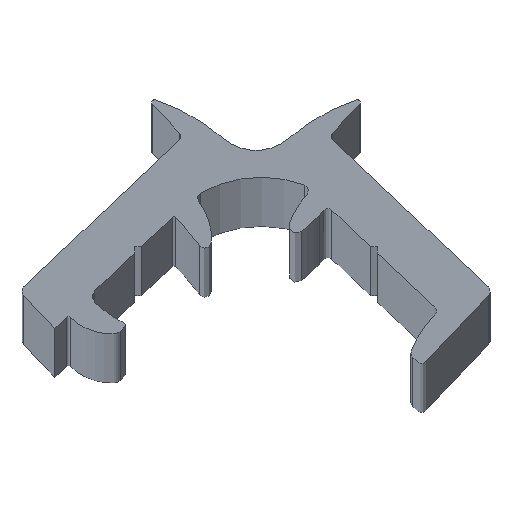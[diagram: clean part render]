
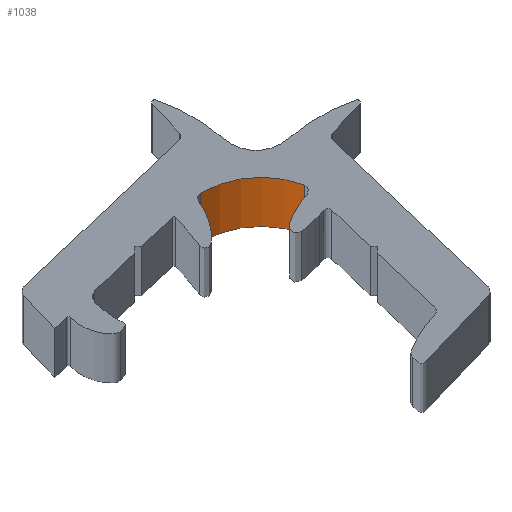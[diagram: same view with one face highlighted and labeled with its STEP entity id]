
A CAD part, top view. The second image highlights one B-rep face of the part: STEP entity #1038.
In plain terms, the highlighted cylindrical face has radius 13.341 mm (diameter 26.681 mm), a partial arc.
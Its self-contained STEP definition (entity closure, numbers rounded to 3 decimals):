
#78=FACE_OUTER_BOUND('',#132,.T.);
#132=EDGE_LOOP('',(#817,#818,#819,#820));
#216=LINE('',#1768,#308);
#217=LINE('',#1774,#309);
#308=VECTOR('',#1448,10.);
#309=VECTOR('',#1455,10.);
#381=CIRCLE('',#1165,13.341);
#382=CIRCLE('',#1166,13.341);
#475=VERTEX_POINT('',#1764);
#476=VERTEX_POINT('',#1766);
#477=VERTEX_POINT('',#1770);
#478=VERTEX_POINT('',#1772);
#620=EDGE_CURVE('',#475,#476,#216,.T.);
#621=EDGE_CURVE('',#475,#477,#381,.T.);
#622=EDGE_CURVE('',#478,#476,#382,.T.);
#623=EDGE_CURVE('',#477,#478,#217,.T.);
#817=ORIENTED_EDGE('',*,*,#621,.F.);
#818=ORIENTED_EDGE('',*,*,#620,.T.);
#819=ORIENTED_EDGE('',*,*,#622,.F.);
#820=ORIENTED_EDGE('',*,*,#623,.F.);
#991=CYLINDRICAL_SURFACE('',#1164,13.341);
#1038=ADVANCED_FACE('',(#78),#991,.F.);
#1164=AXIS2_PLACEMENT_3D('',#1769,#1449,#1450);
#1165=AXIS2_PLACEMENT_3D('',#1771,#1451,#1452);
#1166=AXIS2_PLACEMENT_3D('',#1773,#1453,#1454);
#1448=DIRECTION('',(0.,0.,-1.));
#1449=DIRECTION('center_axis',(0.,0.,-1.));
#1450=DIRECTION('ref_axis',(-0.349,-0.937,0.));
#1451=DIRECTION('center_axis',(0.,0.,-1.));
#1452=DIRECTION('ref_axis',(-0.349,-0.937,0.));
#1453=DIRECTION('center_axis',(0.,0.,1.));
#1454=DIRECTION('ref_axis',(-0.349,-0.937,0.));
#1455=DIRECTION('',(0.,0.,-1.));
#1764=CARTESIAN_POINT('',(-5.932,18.446,0.));
#1766=CARTESIAN_POINT('',(-5.932,18.446,-3000.));
#1768=CARTESIAN_POINT('',(-5.932,18.446,0.));
#1769=CARTESIAN_POINT('Origin',(0.552,6.787,0.));
#1770=CARTESIAN_POINT('',(5.203,19.291,0.));
#1771=CARTESIAN_POINT('Origin',(0.552,6.787,0.));
#1772=CARTESIAN_POINT('',(5.203,19.291,-3000.));
#1773=CARTESIAN_POINT('Origin',(0.552,6.787,-3000.));
#1774=CARTESIAN_POINT('',(5.203,19.291,0.));
